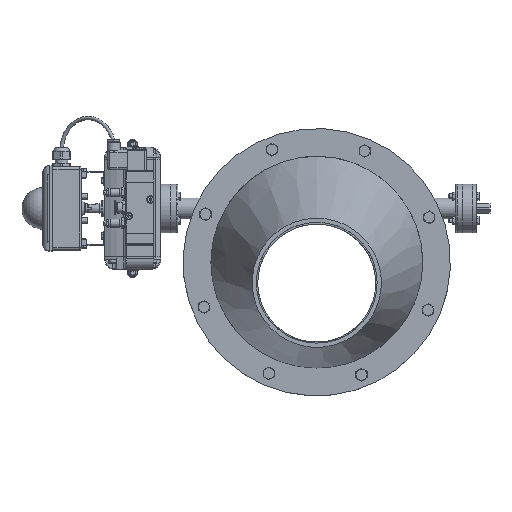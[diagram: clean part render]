
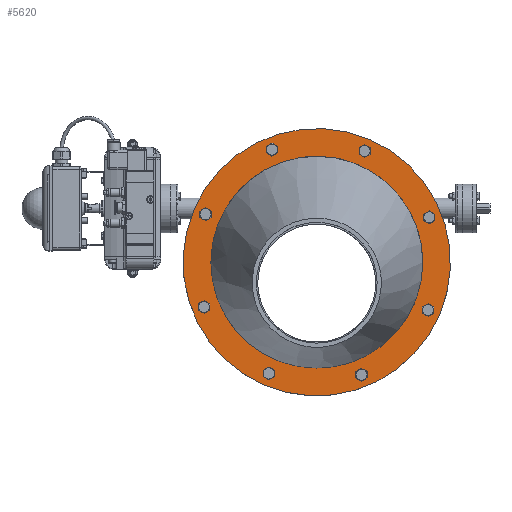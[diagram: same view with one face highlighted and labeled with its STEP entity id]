
A CAD part, top view. The second image highlights one B-rep face of the part: STEP entity #5620.
In plain terms, the highlighted planar face has unit normal (0, 0, 1) as drawn and (0, 0, -1) by its records, which use the part's own axes.
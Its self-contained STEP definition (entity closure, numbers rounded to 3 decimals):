
#5127=CARTESIAN_POINT('',(-5.731,-174.5,0.0));
#5128=VERTEX_POINT('',#5127);
#5129=CARTESIAN_POINT('',(0.019,-174.5,0.0));
#5130=DIRECTION('',(0.0,0.0,1.0));
#5131=DIRECTION('',(1.0,0.0,0.0));
#5132=AXIS2_PLACEMENT_3D('',#5129,#5130,#5131);
#5133=CIRCLE('',#5132,5.75);
#5134=EDGE_CURVE('',#5128,#5128,#5133,.T.);
#5176=CARTESIAN_POINT('',(117.654,-123.376,0.0));
#5177=VERTEX_POINT('',#5176);
#5178=CARTESIAN_POINT('',(123.404,-123.376,0.0));
#5179=DIRECTION('',(0.0,0.0,1.0));
#5180=DIRECTION('',(1.0,0.0,0.0));
#5181=AXIS2_PLACEMENT_3D('',#5178,#5179,#5180);
#5182=CIRCLE('',#5181,5.75);
#5183=EDGE_CURVE('',#5177,#5177,#5182,.T.);
#5225=CARTESIAN_POINT('',(168.75,0.019,0.0));
#5226=VERTEX_POINT('',#5225);
#5227=CARTESIAN_POINT('',(174.5,0.019,0.0));
#5228=DIRECTION('',(0.0,0.0,1.0));
#5229=DIRECTION('',(1.0,0.0,0.0));
#5230=AXIS2_PLACEMENT_3D('',#5227,#5228,#5229);
#5231=CIRCLE('',#5230,5.75);
#5232=EDGE_CURVE('',#5226,#5226,#5231,.T.);
#5274=CARTESIAN_POINT('',(117.626,123.404,0.0));
#5275=VERTEX_POINT('',#5274);
#5276=CARTESIAN_POINT('',(123.376,123.404,0.0));
#5277=DIRECTION('',(0.0,0.0,1.0));
#5278=DIRECTION('',(1.0,0.0,0.0));
#5279=AXIS2_PLACEMENT_3D('',#5276,#5277,#5278);
#5280=CIRCLE('',#5279,5.75);
#5281=EDGE_CURVE('',#5275,#5275,#5280,.T.);
#5323=CARTESIAN_POINT('',(-129.126,-123.404,0.0));
#5324=VERTEX_POINT('',#5323);
#5325=CARTESIAN_POINT('',(-123.376,-123.404,0.0));
#5326=DIRECTION('',(0.0,0.0,1.0));
#5327=DIRECTION('',(1.0,0.0,0.0));
#5328=AXIS2_PLACEMENT_3D('',#5325,#5326,#5327);
#5329=CIRCLE('',#5328,5.75);
#5330=EDGE_CURVE('',#5324,#5324,#5329,.T.);
#5372=CARTESIAN_POINT('',(-180.25,-0.019,0.0));
#5373=VERTEX_POINT('',#5372);
#5374=CARTESIAN_POINT('',(-174.5,-0.019,0.0));
#5375=DIRECTION('',(0.0,0.0,1.0));
#5376=DIRECTION('',(1.0,0.0,0.0));
#5377=AXIS2_PLACEMENT_3D('',#5374,#5375,#5376);
#5378=CIRCLE('',#5377,5.75);
#5379=EDGE_CURVE('',#5373,#5373,#5378,.T.);
#5421=CARTESIAN_POINT('',(-129.154,123.376,0.0));
#5422=VERTEX_POINT('',#5421);
#5423=CARTESIAN_POINT('',(-123.404,123.376,0.0));
#5424=DIRECTION('',(0.0,0.0,1.0));
#5425=DIRECTION('',(1.0,0.0,0.0));
#5426=AXIS2_PLACEMENT_3D('',#5423,#5424,#5425);
#5427=CIRCLE('',#5426,5.75);
#5428=EDGE_CURVE('',#5422,#5422,#5427,.T.);
#5470=CARTESIAN_POINT('',(-5.769,174.5,0.0));
#5471=VERTEX_POINT('',#5470);
#5472=CARTESIAN_POINT('',(-0.019,174.5,0.0));
#5473=DIRECTION('',(0.0,0.0,1.0));
#5474=DIRECTION('',(1.0,0.0,0.0));
#5475=AXIS2_PLACEMENT_3D('',#5472,#5473,#5474);
#5476=CIRCLE('',#5475,5.75);
#5477=EDGE_CURVE('',#5471,#5471,#5476,.T.);
#5509=CARTESIAN_POINT('',(152.5,0.,0.0));
#5510=VERTEX_POINT('',#5509);
#5511=CARTESIAN_POINT('',(0.0,0.0,0.0));
#5512=DIRECTION('',(0.0,0.0,1.0));
#5513=DIRECTION('',(-1.0,0.0,0.0));
#5514=AXIS2_PLACEMENT_3D('',#5511,#5512,#5513);
#5515=CIRCLE('',#5514,152.5);
#5516=EDGE_CURVE('',#5510,#5510,#5515,.T.);
#5537=CARTESIAN_POINT('',(192.5,0.,0.0));
#5538=VERTEX_POINT('',#5537);
#5539=CARTESIAN_POINT('',(0.0,0.0,0.0));
#5540=DIRECTION('',(0.0,0.0,-1.0));
#5541=DIRECTION('',(-1.0,0.0,0.0));
#5542=AXIS2_PLACEMENT_3D('',#5539,#5540,#5541);
#5543=CIRCLE('',#5542,192.5);
#5544=EDGE_CURVE('',#5538,#5538,#5543,.T.);
#5585=CARTESIAN_POINT('',(0.0,0.0,0.0));
#5586=DIRECTION('',(0.0,0.0,-1.0));
#5587=DIRECTION('',(-1.0,0.0,0.0));
#5588=AXIS2_PLACEMENT_3D('',#5585,#5586,#5587);
#5589=PLANE('',#5588);
#5590=ORIENTED_EDGE('',*,*,#5544,.T.);
#5591=EDGE_LOOP('',(#5590));
#5592=FACE_OUTER_BOUND('',#5591,.T.);
#5593=ORIENTED_EDGE('',*,*,#5134,.T.);
#5594=EDGE_LOOP('',(#5593));
#5595=FACE_BOUND('',#5594,.T.);
#5596=ORIENTED_EDGE('',*,*,#5183,.T.);
#5597=EDGE_LOOP('',(#5596));
#5598=FACE_BOUND('',#5597,.T.);
#5599=ORIENTED_EDGE('',*,*,#5232,.T.);
#5600=EDGE_LOOP('',(#5599));
#5601=FACE_BOUND('',#5600,.T.);
#5602=ORIENTED_EDGE('',*,*,#5281,.T.);
#5603=EDGE_LOOP('',(#5602));
#5604=FACE_BOUND('',#5603,.T.);
#5605=ORIENTED_EDGE('',*,*,#5330,.T.);
#5606=EDGE_LOOP('',(#5605));
#5607=FACE_BOUND('',#5606,.T.);
#5608=ORIENTED_EDGE('',*,*,#5379,.T.);
#5609=EDGE_LOOP('',(#5608));
#5610=FACE_BOUND('',#5609,.T.);
#5611=ORIENTED_EDGE('',*,*,#5428,.T.);
#5612=EDGE_LOOP('',(#5611));
#5613=FACE_BOUND('',#5612,.T.);
#5614=ORIENTED_EDGE('',*,*,#5477,.T.);
#5615=EDGE_LOOP('',(#5614));
#5616=FACE_BOUND('',#5615,.T.);
#5617=ORIENTED_EDGE('',*,*,#5516,.T.);
#5618=EDGE_LOOP('',(#5617));
#5619=FACE_BOUND('',#5618,.T.);
#5620=ADVANCED_FACE('',(#5592,#5595,#5598,#5601,#5604,#5607,#5610,#5613,#5616,#5619),#5589,.T.);
